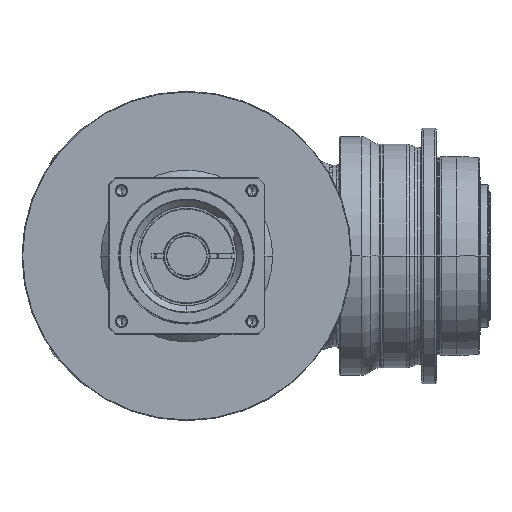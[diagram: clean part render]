
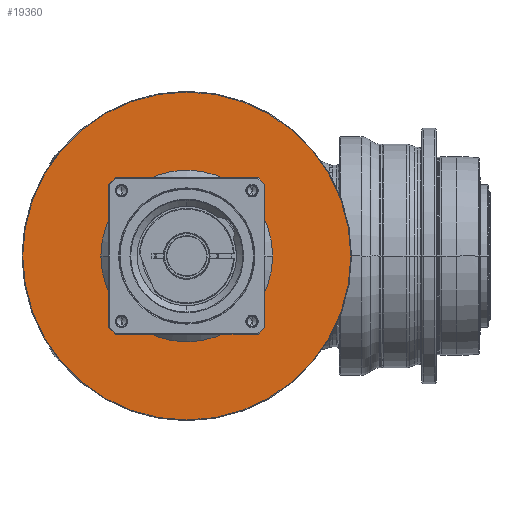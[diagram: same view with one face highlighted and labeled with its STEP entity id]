
A CAD part, front view. The second image highlights one B-rep face of the part: STEP entity #19360.
In plain terms, the highlighted planar face has unit normal (0, -1, 0) as drawn and (1, 0, 0) by its records, which use the part's own axes.
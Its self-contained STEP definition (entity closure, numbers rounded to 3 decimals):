
#18887=CARTESIAN_POINT('',(-5.5,0.,
0.));
#18888=DIRECTION('',(-1.,0.,0.));
#18889=DIRECTION('',(0.,1.,0.));
#18890=AXIS2_PLACEMENT_3D('',#18887,#18888,#18889);
#18892=CARTESIAN_POINT('',(-5.5,0.,
0.));
#18893=DIRECTION('',(-1.,0.,0.));
#18894=DIRECTION('',(0.,-1.,0.));
#18895=AXIS2_PLACEMENT_3D('',#18892,#18893,#18894);
#18897=CARTESIAN_POINT('',(-5.5,0.,0.));
#18898=DIRECTION('',(-1.,0.,0.));
#18899=DIRECTION('',(0.,-1.,0.));
#18900=AXIS2_PLACEMENT_3D('',#18897,#18898,#18899);
#18902=CARTESIAN_POINT('',(-5.5,0.,0.));
#18903=DIRECTION('',(-1.,0.,0.));
#18904=DIRECTION('',(0.,1.,0.));
#18905=AXIS2_PLACEMENT_3D('',#18902,#18903,#18904);
#18931=CARTESIAN_POINT('',(-5.5,-115.5,0.));
#18932=CARTESIAN_POINT('',(-5.5,115.5,0.));
#18933=VERTEX_POINT('',#18931);
#18934=VERTEX_POINT('',#18932);
#18979=CARTESIAN_POINT('',(-5.5,60.5,0.));
#18980=CARTESIAN_POINT('',(-5.5,-60.5,
0.));
#18981=VERTEX_POINT('',#18979);
#18982=VERTEX_POINT('',#18980);
#19345=CARTESIAN_POINT('',(-5.5,0.,0.));
#19346=DIRECTION('',(1.,0.,0.));
#19347=DIRECTION('',(0.,-1.,0.));
#19348=AXIS2_PLACEMENT_3D('',#19345,#19346,#19347);
#19349=PLANE('',#19348);
#19350=ORIENTED_EDGE('',*,*,#19286,.T.);
#19351=ORIENTED_EDGE('',*,*,#19301,.T.);
#19352=EDGE_LOOP('',(#19350,#19351));
#19353=FACE_OUTER_BOUND('',#19352,.F.);
#19355=ORIENTED_EDGE('',*,*,#19354,.F.);
#19357=ORIENTED_EDGE('',*,*,#19356,.F.);
#19358=EDGE_LOOP('',(#19355,#19357));
#19359=FACE_BOUND('',#19358,.F.);
#19360=ADVANCED_FACE('',(#19353,#19359),#19349,.T.);
#18891=CIRCLE('',#18890,60.5);
#18896=CIRCLE('',#18895,60.5);
#18901=CIRCLE('',#18900,115.5);
#18906=CIRCLE('',#18905,115.5);
#19286=EDGE_CURVE('',#18933,#18934,#18901,.T.);
#19301=EDGE_CURVE('',#18934,#18933,#18906,.T.);
#19354=EDGE_CURVE('',#18981,#18982,#18891,.T.);
#19356=EDGE_CURVE('',#18982,#18981,#18896,.T.);
